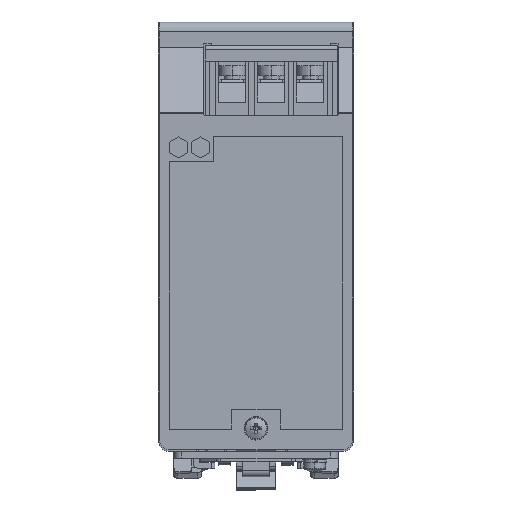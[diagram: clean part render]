
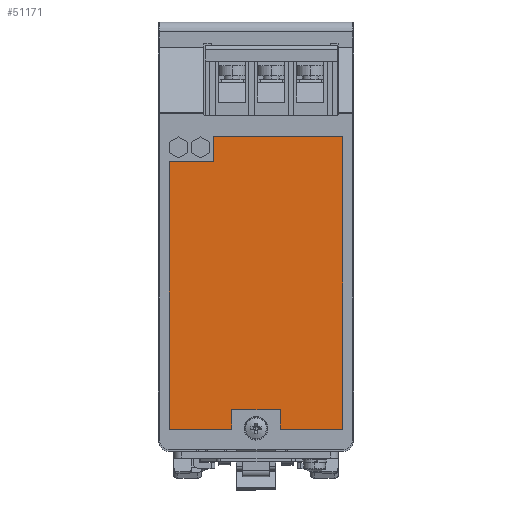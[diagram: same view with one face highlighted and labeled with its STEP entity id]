
A CAD part, front view. The second image highlights one B-rep face of the part: STEP entity #51171.
In plain terms, the highlighted planar face has unit normal (0, -1, 0).
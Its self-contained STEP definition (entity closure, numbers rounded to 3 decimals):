
#22927 = CARTESIAN_POINT ( 'NONE',  ( 14.16, 0.5, 74.2 ) ) ;
#23288 = FACE_OUTER_BOUND ( 'NONE', #51194, .T. ) ;
#23296 = DIRECTION ( 'NONE',  ( 1., 0., 0. ) ) ;
#23297 = VECTOR ( 'NONE', #23296, 1000. ) ;
#23298 = CARTESIAN_POINT ( 'NONE',  ( 18.8, 0.5, 10.8 ) ) ;
#23299 = LINE ( 'NONE', #23298, #23297 ) ;
#23301 = DIRECTION ( 'NONE',  ( 0., 0., 1. ) ) ;
#23302 = VECTOR ( 'NONE', #23301, 1000. ) ;
#23303 = CARTESIAN_POINT ( 'NONE',  ( 18.8, 0.5, 5.8 ) ) ;
#23305 = LINE ( 'NONE', #23303, #23302 ) ;
#23309 = DIRECTION ( 'NONE',  ( 1., 0., 0. ) ) ;
#23310 = VECTOR ( 'NONE', #23309, 1000. ) ;
#23311 = CARTESIAN_POINT ( 'NONE',  ( 31.2, 0.5, 5.8 ) ) ;
#23312 = LINE ( 'NONE', #23311, #23310 ) ;
#23314 = CARTESIAN_POINT ( 'NONE',  ( 31.2, 0.5, 10.8 ) ) ;
#23316 = CARTESIAN_POINT ( 'NONE',  ( 18.8, 0.5, 10.8 ) ) ;
#23317 = CARTESIAN_POINT ( 'NONE',  ( 2.8, 0.5, 74.2 ) ) ;
#23318 = CARTESIAN_POINT ( 'NONE',  ( 2.8, 0.5, 5.8 ) ) ;
#23320 = DIRECTION ( 'NONE',  ( -1., 0., 0. ) ) ;
#23321 = VECTOR ( 'NONE', #23320, 1000. ) ;
#23322 = CARTESIAN_POINT ( 'NONE',  ( 14.16, 0.5, 74.2 ) ) ;
#23323 = LINE ( 'NONE', #23322, #23321 ) ;
#23326 = DIRECTION ( 'NONE',  ( 0., 0., -1. ) ) ;
#23327 = VECTOR ( 'NONE', #23326, 1000. ) ;
#23329 = CARTESIAN_POINT ( 'NONE',  ( 14.16, 0.5, 80.6 ) ) ;
#23331 = LINE ( 'NONE', #23329, #23327 ) ;
#23339 = CARTESIAN_POINT ( 'NONE',  ( 18.8, 0.5, 5.8 ) ) ;
#23341 = DIRECTION ( 'NONE',  ( 1., 0., 0. ) ) ;
#23343 = VECTOR ( 'NONE', #23341, 1000. ) ;
#23345 = CARTESIAN_POINT ( 'NONE',  ( 2.8, 0.5, 5.8 ) ) ;
#23348 = LINE ( 'NONE', #23345, #23343 ) ;
#23349 = DIRECTION ( 'NONE',  ( 0., 0., -1. ) ) ;
#23350 = VECTOR ( 'NONE', #23349, 1000. ) ;
#23352 = CARTESIAN_POINT ( 'NONE',  ( 2.8, 0.5, 74.2 ) ) ;
#23353 = LINE ( 'NONE', #23352, #23350 ) ;
#23357 = DIRECTION ( 'NONE',  ( 0., 0., -1. ) ) ;
#23358 = DIRECTION ( 'NONE',  ( 0., -1., 0. ) ) ;
#23359 = CARTESIAN_POINT ( 'NONE',  ( 1.5, 0.5, 86.49 ) ) ;
#23361 = AXIS2_PLACEMENT_3D ( 'NONE', #23359, #23358, #23357 ) ;
#23363 = PLANE ( 'NONE',  #23361 ) ;
#23393 = CARTESIAN_POINT ( 'NONE',  ( 31.2, 0.5, 5.8 ) ) ;
#23395 = DIRECTION ( 'NONE',  ( 0., 0., -1. ) ) ;
#23397 = VECTOR ( 'NONE', #23395, 1000. ) ;
#23399 = CARTESIAN_POINT ( 'NONE',  ( 31.2, 0.5, 10.8 ) ) ;
#23401 = LINE ( 'NONE', #23399, #23397 ) ;
#23404 = CARTESIAN_POINT ( 'NONE',  ( 14.16, 0.5, 80.6 ) ) ;
#23416 = CARTESIAN_POINT ( 'NONE',  ( 47.2, 0.5, 5.8 ) ) ;
#26190 = DIRECTION ( 'NONE',  ( -1., 0., 0. ) ) ;
#26192 = VECTOR ( 'NONE', #26190, 1000. ) ;
#26193 = CARTESIAN_POINT ( 'NONE',  ( 47.2, 0.5, 80.6 ) ) ;
#26194 = LINE ( 'NONE', #26193, #26192 ) ;
#26674 = CARTESIAN_POINT ( 'NONE',  ( 47.2, 0.5, 80.6 ) ) ;
#26675 = DIRECTION ( 'NONE',  ( 0., 0., 1. ) ) ;
#26676 = VECTOR ( 'NONE', #26675, 1000. ) ;
#26677 = CARTESIAN_POINT ( 'NONE',  ( 47.2, 0.5, 5.8 ) ) ;
#26679 = LINE ( 'NONE', #26677, #26676 ) ;
#51113 = VERTEX_POINT ( 'NONE', #22927 ) ;
#51167 = EDGE_CURVE ( 'NONE', #51176, #51185, #23305, .T. ) ;
#51168 = ORIENTED_EDGE ( 'NONE', *, *, #51169, .T. ) ;
#51169 = EDGE_CURVE ( 'NONE', #51185, #51187, #23299, .T. ) ;
#51171 = ADVANCED_FACE ( 'NONE', ( #23288 ), #23363, .T. ) ;
#51172 = EDGE_CURVE ( 'NONE', #51183, #51181, #23353, .T. ) ;
#51173 = ORIENTED_EDGE ( 'NONE', *, *, #51174, .T. ) ;
#51174 = EDGE_CURVE ( 'NONE', #51181, #51176, #23348, .T. ) ;
#51175 = ORIENTED_EDGE ( 'NONE', *, *, #51167, .T. ) ;
#51176 = VERTEX_POINT ( 'NONE', #23339 ) ;
#51177 = ORIENTED_EDGE ( 'NONE', *, *, #51178, .T. ) ;
#51178 = EDGE_CURVE ( 'NONE', #51193, #51113, #23331, .T. ) ;
#51179 = EDGE_CURVE ( 'NONE', #51113, #51183, #23323, .T. ) ;
#51180 = ORIENTED_EDGE ( 'NONE', *, *, #51172, .T. ) ;
#51181 = VERTEX_POINT ( 'NONE', #23318 ) ;
#51182 = ORIENTED_EDGE ( 'NONE', *, *, #51179, .T. ) ;
#51183 = VERTEX_POINT ( 'NONE', #23317 ) ;
#51185 = VERTEX_POINT ( 'NONE', #23316 ) ;
#51187 = VERTEX_POINT ( 'NONE', #23314 ) ;
#51188 = ORIENTED_EDGE ( 'NONE', *, *, #51189, .T. ) ;
#51189 = EDGE_CURVE ( 'NONE', #51197, #51190, #23312, .T. ) ;
#51190 = VERTEX_POINT ( 'NONE', #23416 ) ;
#51193 = VERTEX_POINT ( 'NONE', #23404 ) ;
#51194 = EDGE_LOOP ( 'NONE', ( #51177, #51182, #51180, #51173, #51175, #51168, #51198, #51188, #51758, #51673 ) ) ;
#51196 = EDGE_CURVE ( 'NONE', #51187, #51197, #23401, .T. ) ;
#51197 = VERTEX_POINT ( 'NONE', #23393 ) ;
#51198 = ORIENTED_EDGE ( 'NONE', *, *, #51196, .T. ) ;
#51673 = ORIENTED_EDGE ( 'NONE', *, *, #51674, .T. ) ;
#51674 = EDGE_CURVE ( 'NONE', #51757, #51193, #26194, .T. ) ;
#51756 = EDGE_CURVE ( 'NONE', #51190, #51757, #26679, .T. ) ;
#51757 = VERTEX_POINT ( 'NONE', #26674 ) ;
#51758 = ORIENTED_EDGE ( 'NONE', *, *, #51756, .T. ) ;
